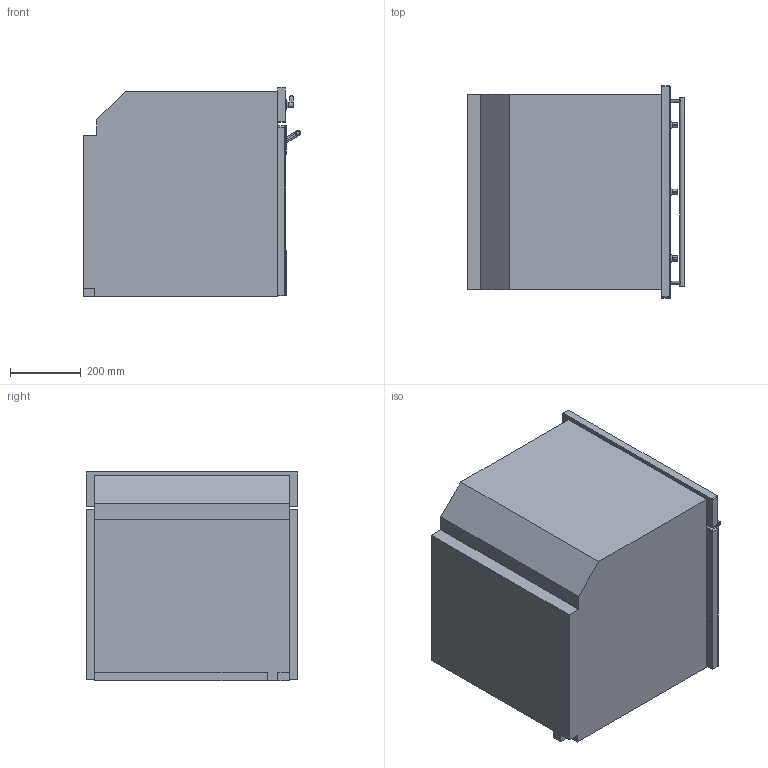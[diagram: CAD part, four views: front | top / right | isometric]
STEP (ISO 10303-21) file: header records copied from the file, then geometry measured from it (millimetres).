
FILE_DESCRIPTION(/* description */ (''),/* implementation_level */ '2;1');
FILE_NAME(/* name */ 'forno sf6381.stp',/* time_stamp */ '2018-07-26T10:27:51+02:00',/* author */ (''),/* organization */ (''),/* preprocessor_version */ 'ST-DEVELOPER v16',/* originating_system */ 'SIEMENS PLM Software NX 11.0',/* authorisation */ '');
FILE_SCHEMA (('AUTOMOTIVE_DESIGN { 1 0 10303 214 3 1 1 1 }'));
Length unit declared in the file: millimetre
Products named in the file (1): gobb1B3C90CFgoe2
Bounding box: 612.5 x 597 x 592 mm (x, y, z)
Volume: 177994927.5 mm3; surface area: 3465344.7 mm2
Topology: 20 solids, 20 shells, 210 faces, 474 edges, 316 vertices
Faces by surface type: plane 134, cylinder 62, extrusion 11, cone 3
Full cylindrical faces by diameter (mm): 4 x4, 4.608 x6, 8.5 x5, 12 x2, 14 x1, 15 x3, 20 x3, 27 x3
Entity records: 6061 total; most frequent: CARTESIAN_POINT 1293, DIRECTION 939, ORIENTED_EDGE 864, EDGE_CURVE 432, AXIS2_PLACEMENT_3D 327, VERTEX_POINT 307, VECTOR 285, LINE 274
